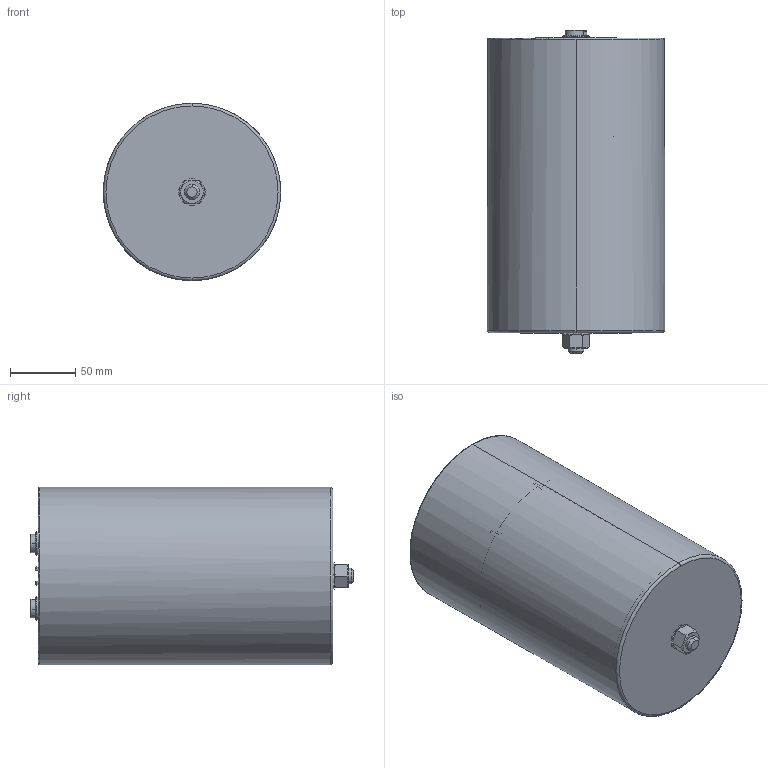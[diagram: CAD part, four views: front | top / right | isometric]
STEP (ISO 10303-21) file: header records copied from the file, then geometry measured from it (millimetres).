
FILE_DESCRIPTION (( 'STEP AP214' ), '1' );
FILE_NAME ('B25690 Series ¦µ136 Hc226 Ht232.STEP', '2025-01-14T08:12:05', ( '' ), ( '' ), 'SwSTEP 2.0', 'SolidWorks 2019', '' );
FILE_SCHEMA (( 'AUTOMOTIVE_DESIGN' ));
Length unit declared in the file: millimetre
Products named in the file (1): B25690 Series 朴136 Hc226 Ht232
Bounding box: 136 x 248 x 136 mm (x, y, z)
Volume: 308491.2 mm3; surface area: 248092.4 mm2
Topology: 1 solids, 3 shells, 233 faces, 593 edges, 364 vertices
Faces by surface type: plane 104, cylinder 75, cone 38, torus 8, sphere 8
Entity records: 7257 total; most frequent: CARTESIAN_POINT 1649, DIRECTION 1199, ORIENTED_EDGE 1162, EDGE_CURVE 581, AXIS2_PLACEMENT_3D 478, VERTEX_POINT 364, EDGE_LOOP 245, CIRCLE 244
